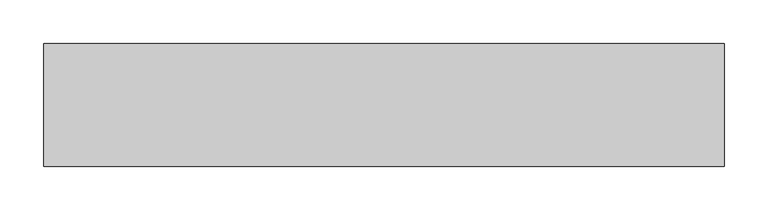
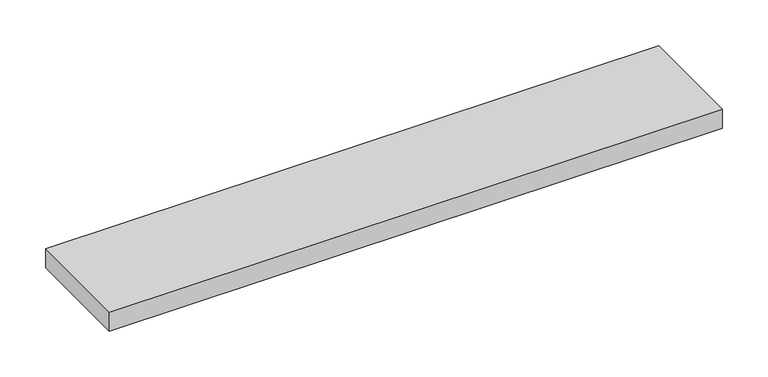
"""IFC4 building model written with IfcOpenShell, lengths in millimetres: proxy geometry, CAMBRIDGE^TABLE 2_4884 Rect-BOTTOM STILE 3."""

from ifc_helpers import new_model, si_unit, frame, origin, place, context, project, spatial, polyline, outline, extrude, source, transform, mapped, element, save


def generic_models_2917942c(model_context):
    return source(origin(), model_context, "Body", "SweptSolid", [
        extrude(outline(polyline([(1454.15, -711.2), (679.45, -711.2), (679.45, -571.5), (1454.15, -571.5), (1454.15, -711.2)])), frame((0.0, 0.0, -431.8), z_axis=(0.0, 0.0, 1.0), x_axis=(1.0, 0.0, 0.0)), (0.0, 0.0, 1.0), 25.4),
    ])


if __name__ == "__main__":
    model = new_model("IFC4")
    model_context = context("Model", 3, world=origin())
    ifc_project = project(units=[si_unit("LENGTHUNIT", "METRE", prefix="MILLI")], contexts=[model_context])
    site = spatial("IfcSite", under=ifc_project)
    building = spatial("IfcBuilding", under=site)
    placement = place(None, origin())
    generic_models_shape = generic_models_2917942c(model_context)
    element("IfcBuildingElementProxy", 1, Name="CAMBRIDGE^TABLE 2_4884 Rect-BOTTOM STILE 3", ObjectType="CAMBRIDGE^TABLE 2_4884 Rect-BOTTOM STILE 3", at=placement, inside=building, context=model_context, shape_type="MappedRepresentation", body=[
        mapped(generic_models_shape, transform((0.0, 0.0, 0.0), x_axis=(1.0, 0.0, 0.0), y_axis=(0.0, 1.0, 0.0), z_axis=(0.0, 0.0, 1.0))),
    ])
    save(model, "model.ifc")
